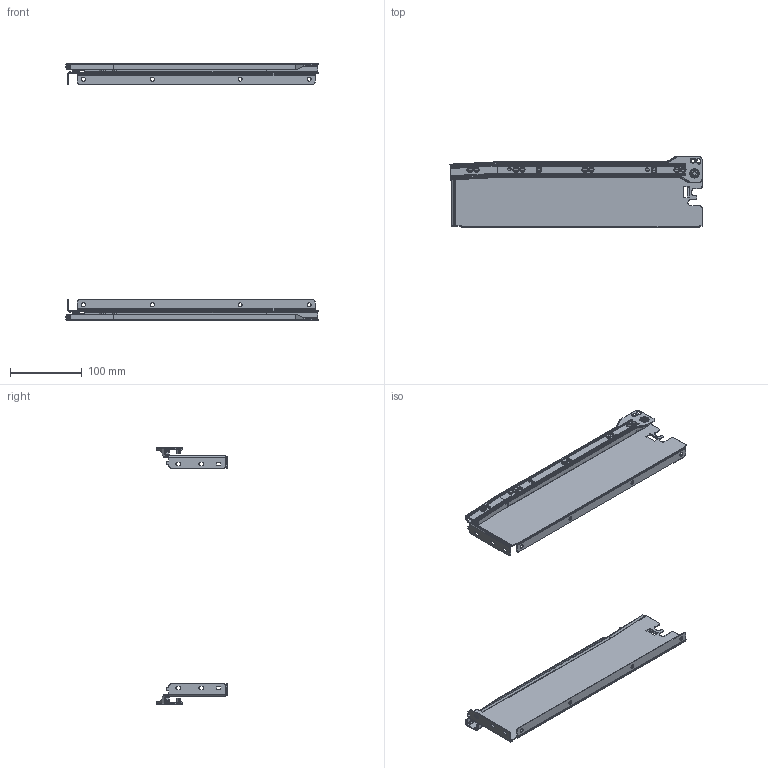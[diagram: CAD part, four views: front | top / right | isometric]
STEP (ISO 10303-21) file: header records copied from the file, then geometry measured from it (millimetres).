
FILE_DESCRIPTION (( 'STEP AP214' ), '1' );
FILE_NAME ('Výška 86 - 350 mm Š + B-286660 a 286648.STEP', '2019-06-19T10:57:47', ( '' ), ( '' ), 'SwSTEP 2.0', 'SolidWorks 2019', '' );
FILE_SCHEMA (( 'AUTOMOTIVE_DESIGN' ));
Length unit declared in the file: millimetre
Products named in the file (5): 132-86DL-350_132-86DL-350; 132-86DR-350_132-86DL-350; DS-132CR-350; DS-132CL-350; Výška 86 - 350 mm Š + B-286660 a 286648
Assembly tree (4 placements, depth 2):
  Výška 86 - 350 mm Š + B-286660 a 286648
    132-86DL-350_132-86DL-350
    DS-132CR-350
    DS-132CL-350
    132-86DR-350_132-86DL-350
Bounding box: 350.67 x 98.59 x 357 mm (x, y, z)
Volume: 113526.9 mm3; surface area: 212032.6 mm2
Topology: 4 solids, 4 shells, 790 faces, 2078 edges, 1294 vertices
Faces by surface type: plane 416, cylinder 276, cone 52, bspline 30, torus 16
Entity records: 24996 total; most frequent: CARTESIAN_POINT 5299, ORIENTED_EDGE 4140, DIRECTION 4026, EDGE_CURVE 2070, AXIS2_PLACEMENT_3D 1353, LINE 1320, VECTOR 1320, VERTEX_POINT 1294
